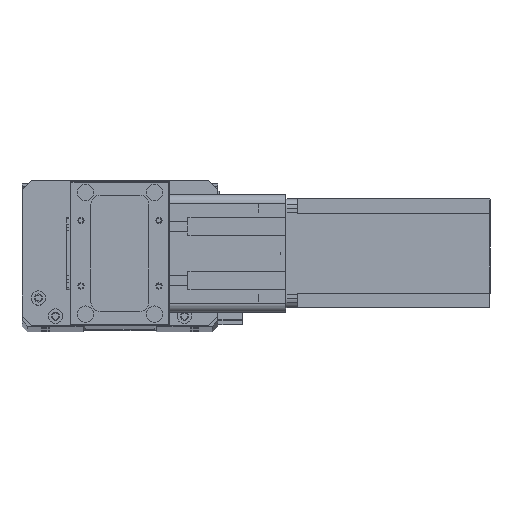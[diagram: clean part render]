
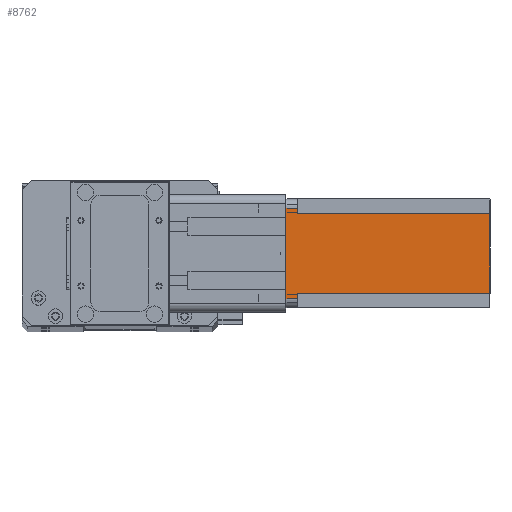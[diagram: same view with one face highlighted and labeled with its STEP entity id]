
A CAD part, top view. The second image highlights one B-rep face of the part: STEP entity #8762.
In plain terms, the highlighted planar face has unit normal (0, 0, 1) as drawn and (0, 1, 0) by its records, which use the part's own axes.
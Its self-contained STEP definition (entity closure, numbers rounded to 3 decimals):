
#708 = VECTOR ( 'NONE', #23276, 1000. ) ;
#1068 = ORIENTED_EDGE ( 'NONE', *, *, #15061, .F. ) ;
#1861 = CARTESIAN_POINT ( 'NONE',  ( 52., 60., -6.5 ) ) ;
#1870 = ORIENTED_EDGE ( 'NONE', *, *, #18658, .F. ) ;
#2652 = ORIENTED_EDGE ( 'NONE', *, *, #23811, .T. ) ;
#3929 = VECTOR ( 'NONE', #12881, 1000. ) ;
#4646 = VERTEX_POINT ( 'NONE', #26485 ) ;
#4767 = LINE ( 'NONE', #17557, #10148 ) ;
#5459 = LINE ( 'NONE', #26425, #28605 ) ;
#6597 = VERTEX_POINT ( 'NONE', #15359 ) ;
#6991 = CARTESIAN_POINT ( 'NONE',  ( 52., 60., -112.5 ) ) ;
#7989 = VECTOR ( 'NONE', #10516, 1000. ) ;
#8028 = VECTOR ( 'NONE', #21641, 1000. ) ;
#8211 = CARTESIAN_POINT ( 'NONE',  ( 0., 60., 0. ) ) ;
#8630 = ORIENTED_EDGE ( 'NONE', *, *, #24695, .T. ) ;
#8750 = LINE ( 'NONE', #28349, #8028 ) ;
#8762 = ADVANCED_FACE ( 'NONE', ( #28061 ), #26344, .T. ) ;
#8791 = CARTESIAN_POINT ( 'NONE',  ( 8., 60., -6.5 ) ) ;
#9310 = DIRECTION ( 'NONE',  ( 0., 0., 1. ) ) ;
#9746 = VERTEX_POINT ( 'NONE', #1861 ) ;
#10000 = LINE ( 'NONE', #8211, #3929 ) ;
#10148 = VECTOR ( 'NONE', #21943, 1000. ) ;
#10311 = VECTOR ( 'NONE', #26992, 1000. ) ;
#10516 = DIRECTION ( 'NONE',  ( 0., 0., 1. ) ) ;
#10545 = LINE ( 'NONE', #6991, #21012 ) ;
#12106 = LINE ( 'NONE', #16564, #708 ) ;
#12881 = DIRECTION ( 'NONE',  ( -1., 0., 0. ) ) ;
#13007 = DIRECTION ( 'NONE',  ( 0., 1., 0. ) ) ;
#14634 = EDGE_CURVE ( 'NONE', #6597, #15205, #10000, .T. ) ;
#15061 = EDGE_CURVE ( 'NONE', #9746, #26806, #12106, .T. ) ;
#15205 = VERTEX_POINT ( 'NONE', #21525 ) ;
#15359 = CARTESIAN_POINT ( 'NONE',  ( 55., 60., 0. ) ) ;
#16370 = CARTESIAN_POINT ( 'NONE',  ( 8., 60., -112.5 ) ) ;
#16564 = CARTESIAN_POINT ( 'NONE',  ( 52., 60., -6.5 ) ) ;
#16828 = ORIENTED_EDGE ( 'NONE', *, *, #14634, .F. ) ;
#17338 = CARTESIAN_POINT ( 'NONE',  ( 5., 60., -112.5 ) ) ;
#17557 = CARTESIAN_POINT ( 'NONE',  ( 8., 60., -6.5 ) ) ;
#18303 = CARTESIAN_POINT ( 'NONE',  ( 52., 60., -112.5 ) ) ;
#18658 = EDGE_CURVE ( 'NONE', #26439, #9746, #10545, .T. ) ;
#18743 = VERTEX_POINT ( 'NONE', #16370 ) ;
#18955 = EDGE_CURVE ( 'NONE', #4646, #15205, #19941, .T. ) ;
#19765 = CARTESIAN_POINT ( 'NONE',  ( 55., 60., -6.5 ) ) ;
#19941 = LINE ( 'NONE', #17338, #7989 ) ;
#21012 = VECTOR ( 'NONE', #9310, 1000. ) ;
#21525 = CARTESIAN_POINT ( 'NONE',  ( 5., 60., 0. ) ) ;
#21641 = DIRECTION ( 'NONE',  ( 0., 0., -1. ) ) ;
#21861 = EDGE_CURVE ( 'NONE', #26439, #18743, #23570, .T. ) ;
#21874 = CARTESIAN_POINT ( 'NONE',  ( 0., 60., -112.5 ) ) ;
#21943 = DIRECTION ( 'NONE',  ( -1., 0., 0. ) ) ;
#22527 = ORIENTED_EDGE ( 'NONE', *, *, #28034, .F. ) ;
#22862 = AXIS2_PLACEMENT_3D ( 'NONE', #21874, #13007, #28579 ) ;
#23276 = DIRECTION ( 'NONE',  ( 1., 0., 0. ) ) ;
#23570 = LINE ( 'NONE', #24759, #10311 ) ;
#23811 = EDGE_CURVE ( 'NONE', #6597, #26806, #8750, .T. ) ;
#23947 = VERTEX_POINT ( 'NONE', #8791 ) ;
#24282 = DIRECTION ( 'NONE',  ( 0., 0., -1. ) ) ;
#24350 = EDGE_LOOP ( 'NONE', ( #16828, #2652, #1068, #1870, #28988, #22527, #8630, #27353 ) ) ;
#24695 = EDGE_CURVE ( 'NONE', #23947, #4646, #4767, .T. ) ;
#24759 = CARTESIAN_POINT ( 'NONE',  ( 0., 60., -112.5 ) ) ;
#26344 = PLANE ( 'NONE',  #22862 ) ;
#26425 = CARTESIAN_POINT ( 'NONE',  ( 8., 60., -112.5 ) ) ;
#26439 = VERTEX_POINT ( 'NONE', #18303 ) ;
#26485 = CARTESIAN_POINT ( 'NONE',  ( 5., 60., -6.5 ) ) ;
#26806 = VERTEX_POINT ( 'NONE', #19765 ) ;
#26992 = DIRECTION ( 'NONE',  ( -1., 0., 0. ) ) ;
#27353 = ORIENTED_EDGE ( 'NONE', *, *, #18955, .T. ) ;
#28034 = EDGE_CURVE ( 'NONE', #23947, #18743, #5459, .T. ) ;
#28061 = FACE_OUTER_BOUND ( 'NONE', #24350, .T. ) ;
#28349 = CARTESIAN_POINT ( 'NONE',  ( 55., 60., -112.5 ) ) ;
#28579 = DIRECTION ( 'NONE',  ( 0., 0., 1. ) ) ;
#28605 = VECTOR ( 'NONE', #24282, 1000. ) ;
#28988 = ORIENTED_EDGE ( 'NONE', *, *, #21861, .T. ) ;
